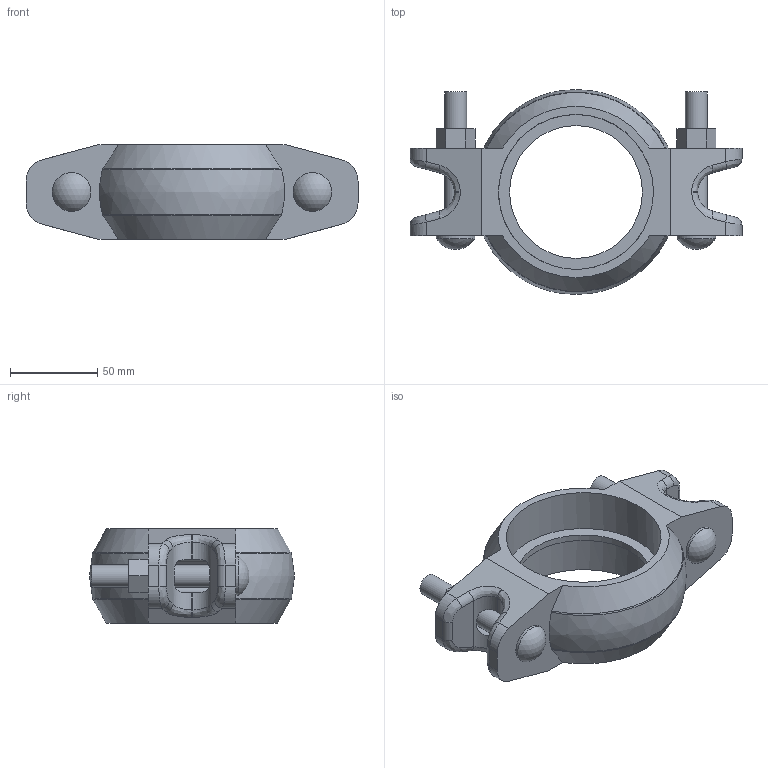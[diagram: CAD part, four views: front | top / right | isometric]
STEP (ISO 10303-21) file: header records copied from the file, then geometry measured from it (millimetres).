
FILE_DESCRIPTION(/* description */ ('QUICKVIC RIGID COUPLING FOR STEEL STYLE 107N','CAx-IF Rec.Pracs.---Representation and Presentation of Product Manufacturing Information (PMI)---4.0---2014-10-13'),/* implementation_level */ '2;1');
FILE_NAME(/* name */ 'C:\Users\Vjadhav\Desktop\CAD for Inventor\1\Coupling bolt thickness\107N\STEP\Victaulic_IPS_Coupling Rigid_Style 107N (OGS)\Victaulic_IPS_Coupling Rigid_Style 107N (OGS)_3 (80).stp',/* time_stamp */ '2022-03-28T14:19:12+06:00',/* author */ ('jheald'),/* organization */ ('Victaulic'),/* preprocessor_version */ 'ST-DEVELOPER v17.2',/* originating_system */ 'Autodesk Inventor 2019',/* authorisation */ '');
FILE_SCHEMA (('PROCESS_PLANNING_SCHEMA','AP242_MANAGED_MODEL_BASED_3D_ENGINEERING_MIM_LF { 1 0 10303 442 1 1 4 }'));
Length unit declared in the file: inch
Products named in the file (1): 107N-03.0
Bounding box: 190.5 x 117.6 x 54.1 mm (x, y, z)
Volume: 340003.1 mm3; surface area: 68297.2 mm2
Topology: 1 solids, 1 shells, 119 faces, 315 edges, 202 vertices
Faces by surface type: plane 50, cylinder 41, bspline 18, cone 4, torus 4, sphere 2
Full cylindrical faces by diameter (mm): 12.7 x4, 22.225 x2, 76.2 x1, 88.9 x2
Entity records: 4568 total; most frequent: CARTESIAN_POINT 1350, DIRECTION 643, ORIENTED_EDGE 630, EDGE_CURVE 315, AXIS2_PLACEMENT_3D 241, VERTEX_POINT 202, LINE 161, VECTOR 161
